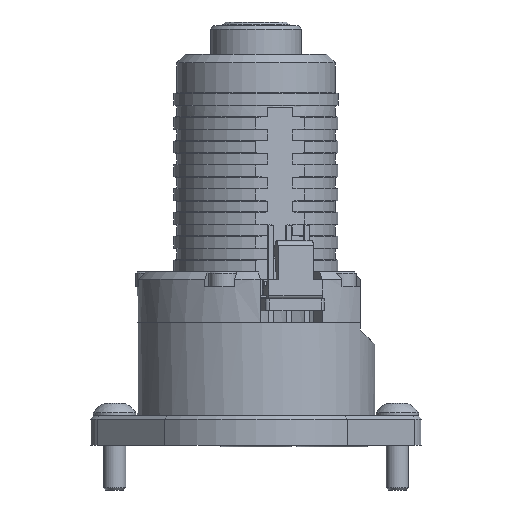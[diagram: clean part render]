
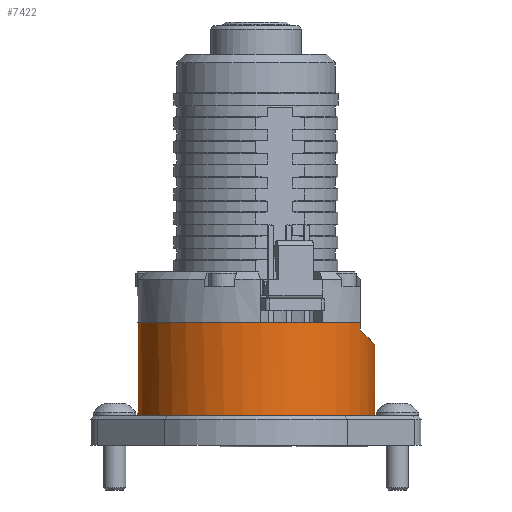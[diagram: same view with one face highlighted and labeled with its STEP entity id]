
A CAD part, left-side view. The second image highlights one B-rep face of the part: STEP entity #7422.
In plain terms, the highlighted cylindrical face has radius 15.95 mm (diameter 31.9 mm), a full revolution.
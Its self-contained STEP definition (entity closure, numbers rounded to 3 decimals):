
#371 = EDGE_CURVE ( 'NONE', #7213, #7213, #14910, .T. ) ;
#958 = CARTESIAN_POINT ( 'NONE',  ( -7.587, -14.03, -5.625 ) ) ;
#1122 = VERTEX_POINT ( 'NONE', #1909 ) ;
#1545 = EDGE_LOOP ( 'NONE', ( #11603 ) ) ;
#1753 = VERTEX_POINT ( 'NONE', #3699 ) ;
#1909 = CARTESIAN_POINT ( 'NONE',  ( -7.587, -14.03, -5.625 ) ) ;
#2099 = FACE_OUTER_BOUND ( 'NONE', #3006, .T. ) ;
#2651 = CARTESIAN_POINT ( 'NONE',  ( 7.587, -14.03, -4.625 ) ) ;
#2657 =( BOUNDED_CURVE ( )  B_SPLINE_CURVE ( 3, ( #9490, #9940, #17804, #958 ),
 .UNSPECIFIED., .F., .F. ) 
 B_SPLINE_CURVE_WITH_KNOTS ( ( 4, 4 ),
 ( 2.646, 3.637 ),
 .UNSPECIFIED. ) 
 CURVE ( )  GEOMETRIC_REPRESENTATION_ITEM ( )  RATIONAL_B_SPLINE_CURVE ( ( 1., 0.92, 0.92, 1. ) ) 
 REPRESENTATION_ITEM ( '' )  );
#2964 = CYLINDRICAL_SURFACE ( 'NONE', #5508, 15.95 ) ;
#3006 = EDGE_LOOP ( 'NONE', ( #4326, #7506, #17757, #9756 ) ) ;
#3407 = DIRECTION ( 'NONE',  ( 1., 0., 0. ) ) ;
#3471 = DIRECTION ( 'NONE',  ( 0., 0., -1. ) ) ;
#3499 = CARTESIAN_POINT ( 'NONE',  ( 0., 0., -4.625 ) ) ;
#3553 = CARTESIAN_POINT ( 'NONE',  ( 15.95, 0., -17.125 ) ) ;
#3699 = CARTESIAN_POINT ( 'NONE',  ( -7.587, -14.03, -4.625 ) ) ;
#4326 = ORIENTED_EDGE ( 'NONE', *, *, #12670, .T. ) ;
#5236 = VERTEX_POINT ( 'NONE', #2651 ) ;
#5508 = AXIS2_PLACEMENT_3D ( 'NONE', #9310, #9130, #8262 ) ;
#6566 = VERTEX_POINT ( 'NONE', #9772 ) ;
#6962 = LINE ( 'NONE', #16058, #7835 ) ;
#7213 = VERTEX_POINT ( 'NONE', #3553 ) ;
#7422 = ADVANCED_FACE ( 'NONE', ( #13703, #2099 ), #2964, .T. ) ;
#7460 = LINE ( 'NONE', #12242, #14822 ) ;
#7506 = ORIENTED_EDGE ( 'NONE', *, *, #8283, .T. ) ;
#7835 = VECTOR ( 'NONE', #15949, 1000. ) ;
#8262 = DIRECTION ( 'NONE',  ( -1., 0., 0. ) ) ;
#8283 = EDGE_CURVE ( 'NONE', #5236, #6566, #6962, .T. ) ;
#8746 = AXIS2_PLACEMENT_3D ( 'NONE', #15399, #15522, #15599 ) ;
#9130 = DIRECTION ( 'NONE',  ( 0., 0., 1. ) ) ;
#9310 = CARTESIAN_POINT ( 'NONE',  ( 0., 0., -17.125 ) ) ;
#9490 = CARTESIAN_POINT ( 'NONE',  ( 7.587, -14.03, -5.625 ) ) ;
#9756 = ORIENTED_EDGE ( 'NONE', *, *, #13269, .T. ) ;
#9772 = CARTESIAN_POINT ( 'NONE',  ( 7.587, -14.03, -5.625 ) ) ;
#9940 = CARTESIAN_POINT ( 'NONE',  ( 2.75, -16.646, -8.241 ) ) ;
#11603 = ORIENTED_EDGE ( 'NONE', *, *, #371, .F. ) ;
#12058 = CIRCLE ( 'NONE', #12789, 15.95 ) ;
#12242 = CARTESIAN_POINT ( 'NONE',  ( -7.587, -14.03, -17.125 ) ) ;
#12634 = DIRECTION ( 'NONE',  ( 0., 0., 1. ) ) ;
#12670 = EDGE_CURVE ( 'NONE', #1753, #5236, #12058, .T. ) ;
#12789 = AXIS2_PLACEMENT_3D ( 'NONE', #3499, #3471, #3407 ) ;
#13269 = EDGE_CURVE ( 'NONE', #1122, #1753, #7460, .T. ) ;
#13703 = FACE_OUTER_BOUND ( 'NONE', #1545, .T. ) ;
#14444 = EDGE_CURVE ( 'NONE', #6566, #1122, #2657, .T. ) ;
#14822 = VECTOR ( 'NONE', #12634, 1000. ) ;
#14910 = CIRCLE ( 'NONE', #8746, 15.95 ) ;
#15399 = CARTESIAN_POINT ( 'NONE',  ( 0., 0., -17.125 ) ) ;
#15522 = DIRECTION ( 'NONE',  ( 0., 0., -1. ) ) ;
#15599 = DIRECTION ( 'NONE',  ( 1., 0., 0. ) ) ;
#15949 = DIRECTION ( 'NONE',  ( 0., 0., -1. ) ) ;
#16058 = CARTESIAN_POINT ( 'NONE',  ( 7.587, -14.03, -17.125 ) ) ;
#17757 = ORIENTED_EDGE ( 'NONE', *, *, #14444, .T. ) ;
#17804 = CARTESIAN_POINT ( 'NONE',  ( -2.75, -16.646, -8.241 ) ) ;
